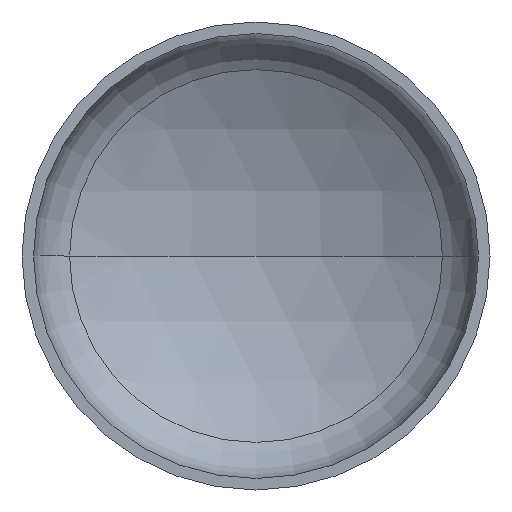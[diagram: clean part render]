
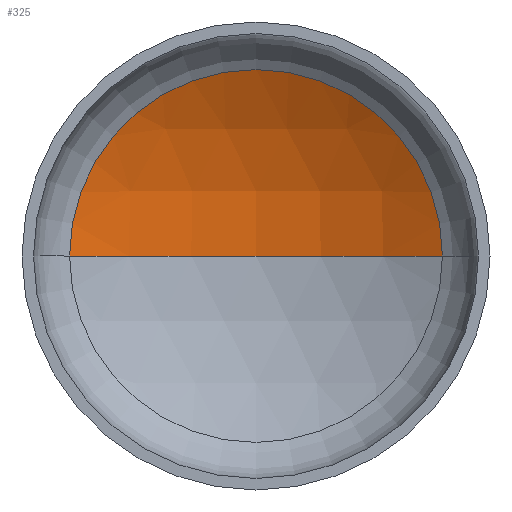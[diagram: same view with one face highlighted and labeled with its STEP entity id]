
A CAD part, front view. The second image highlights one B-rep face of the part: STEP entity #325.
In plain terms, the highlighted spherical face has radius 1200 mm.
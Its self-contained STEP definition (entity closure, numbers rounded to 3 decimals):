
#2 = ORIENTED_EDGE ( 'NONE', *, *, #127, .F. ) ;
#12 = AXIS2_PLACEMENT_3D ( 'NONE', #147, #391, #167 ) ;
#14 = EDGE_LOOP ( 'NONE', ( #2, #311, #104 ) ) ;
#30 = DIRECTION ( 'NONE',  ( -1., 0., 0. ) ) ;
#47 = AXIS2_PLACEMENT_3D ( 'NONE', #144, #399, #358 ) ;
#54 = AXIS2_PLACEMENT_3D ( 'NONE', #162, #166, #30 ) ;
#55 = AXIS2_PLACEMENT_3D ( 'NONE', #222, #217, #221 ) ;
#65 = VERTEX_POINT ( 'NONE', #258 ) ;
#104 = ORIENTED_EDGE ( 'NONE', *, *, #119, .T. ) ;
#110 = VERTEX_POINT ( 'NONE', #335 ) ;
#119 = EDGE_CURVE ( 'NONE', #120, #110, #172, .T. ) ;
#120 = VERTEX_POINT ( 'NONE', #296 ) ;
#124 = EDGE_CURVE ( 'NONE', #65, #120, #285, .T. ) ;
#127 = EDGE_CURVE ( 'NONE', #65, #110, #232, .T. ) ;
#144 = CARTESIAN_POINT ( 'NONE',  ( 0., -721.196, 0. ) ) ;
#147 = CARTESIAN_POINT ( 'NONE',  ( 0., -721.196, 0. ) ) ;
#162 = CARTESIAN_POINT ( 'NONE',  ( 0., -721.196, 0. ) ) ;
#166 = DIRECTION ( 'NONE',  ( 0., 0., -1. ) ) ;
#167 = DIRECTION ( 'NONE',  ( -1., 0., 0. ) ) ;
#172 = CIRCLE ( 'NONE', #55, 597.526 ) ;
#207 = SPHERICAL_SURFACE ( 'NONE', #12, 1200. ) ;
#217 = DIRECTION ( 'NONE',  ( 0., -1., 0. ) ) ;
#221 = DIRECTION ( 'NONE',  ( 1., 0., 0. ) ) ;
#222 = CARTESIAN_POINT ( 'NONE',  ( 0., 319.459, 0. ) ) ;
#232 = CIRCLE ( 'NONE', #47, 1200. ) ;
#258 = CARTESIAN_POINT ( 'NONE',  ( 0., 478.804, 0. ) ) ;
#285 = CIRCLE ( 'NONE', #54, 1200. ) ;
#296 = CARTESIAN_POINT ( 'NONE',  ( 597.526, 319.459, 0. ) ) ;
#311 = ORIENTED_EDGE ( 'NONE', *, *, #124, .T. ) ;
#325 = ADVANCED_FACE ( 'NONE', ( #333 ), #207, .F. ) ;
#333 = FACE_OUTER_BOUND ( 'NONE', #14, .T. ) ;
#335 = CARTESIAN_POINT ( 'NONE',  ( -597.526, 319.459, 0. ) ) ;
#358 = DIRECTION ( 'NONE',  ( 1., 0., 0. ) ) ;
#391 = DIRECTION ( 'NONE',  ( 0., 0., -1. ) ) ;
#399 = DIRECTION ( 'NONE',  ( 0., 0., 1. ) ) ;
